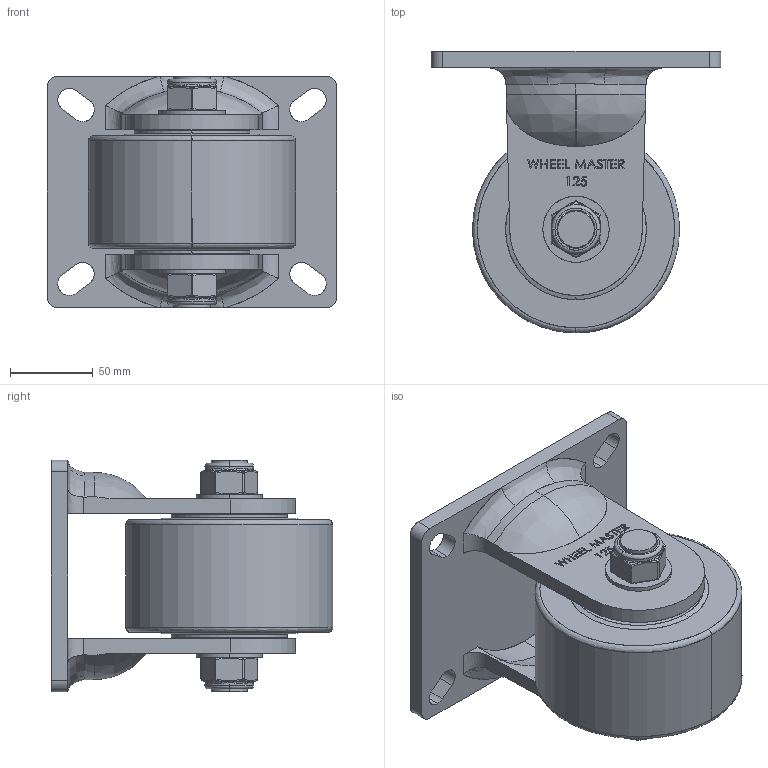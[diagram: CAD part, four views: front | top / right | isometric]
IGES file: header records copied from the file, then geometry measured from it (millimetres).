
Start section: SolidWorks IGES file using analytic representation for surfaces
Global section: file name: C:\Users\KIM\Desktop\WXT-125RF-MD.IGS; native system: SolidWorks 2011; preprocessor: SolidWorks 2011; author: KIM; date: 111225.233021; units: millimetre
Bounding box: 175 x 170 x 140 mm (x, y, z)
Surface area: 195008.6 mm2 (no closed solid volume)
Topology: 0 solids, 0 shells, 718 faces, 7782 edges, 7758 vertices
Faces by surface type: bspline 554, revolution 164
